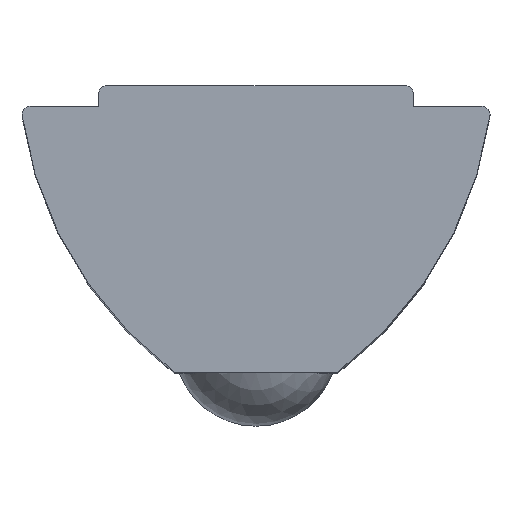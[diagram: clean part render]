
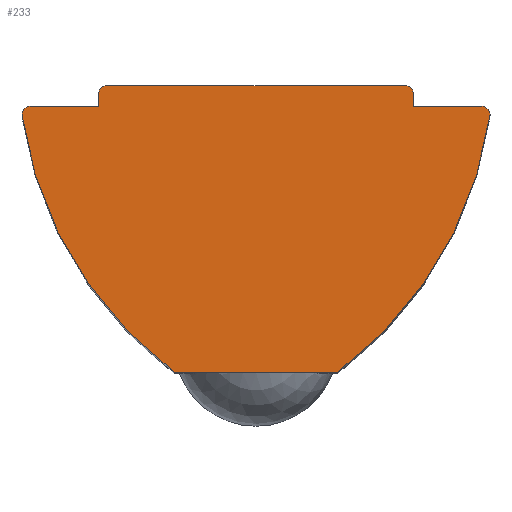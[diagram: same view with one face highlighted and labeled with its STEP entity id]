
A CAD part, top view. The second image highlights one B-rep face of the part: STEP entity #233.
In plain terms, the highlighted planar face has unit normal (0, 0, 1).
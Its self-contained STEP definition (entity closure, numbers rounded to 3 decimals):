
#9 = VECTOR ( 'NONE', #481, 1000. ) ;
#12 = AXIS2_PLACEMENT_3D ( 'NONE', #758, #367, #790 ) ;
#13 = AXIS2_PLACEMENT_3D ( 'NONE', #539, #29, #601 ) ;
#14 = CARTESIAN_POINT ( 'NONE',  ( 3.85, 0., 10. ) ) ;
#19 = CIRCLE ( 'NONE', #232, 9.5 ) ;
#24 = VECTOR ( 'NONE', #603, 1000. ) ;
#29 = DIRECTION ( 'NONE',  ( 0., 0., 1. ) ) ;
#37 = LINE ( 'NONE', #607, #24 ) ;
#38 = CARTESIAN_POINT ( 'NONE',  ( -3.685, 7.611, 10. ) ) ;
#51 = CARTESIAN_POINT ( 'NONE',  ( -5.72, 6.272, 10. ) ) ;
#53 = AXIS2_PLACEMENT_3D ( 'NONE', #755, #361, #789 ) ;
#54 = CIRCLE ( 'NONE', #360, 9.5 ) ;
#57 = VECTOR ( 'NONE', #493, 1000. ) ;
#63 = AXIS2_PLACEMENT_3D ( 'NONE', #450, #833, #535 ) ;
#68 = CARTESIAN_POINT ( 'NONE',  ( 3.685, 7.611, 10. ) ) ;
#70 = CARTESIAN_POINT ( 'NONE',  ( 5.522, 6.5, 10. ) ) ;
#74 = LINE ( 'NONE', #543, #57 ) ;
#91 = VECTOR ( 'NONE', #514, 1000. ) ;
#96 = LINE ( 'NONE', #392, #91 ) ;
#100 = LINE ( 'NONE', #141, #111 ) ;
#111 = VECTOR ( 'NONE', #577, 1000. ) ;
#126 = LINE ( 'NONE', #591, #9 ) ;
#141 = CARTESIAN_POINT ( 'NONE',  ( 0., 7., 10. ) ) ;
#163 = EDGE_CURVE ( 'NONE', #576, #401, #282, .T. ) ;
#165 = EDGE_CURVE ( 'NONE', #832, #800, #269, .T. ) ;
#170 = EDGE_CURVE ( 'NONE', #382, #846, #263, .T. ) ;
#180 = EDGE_CURVE ( 'NONE', #401, #325, #257, .T. ) ;
#188 = EDGE_CURVE ( 'NONE', #640, #520, #256, .T. ) ;
#201 = DIRECTION ( 'NONE',  ( 0., 0., 1. ) ) ;
#203 = DIRECTION ( 'NONE',  ( 0., 0., 1. ) ) ;
#207 = CIRCLE ( 'NONE', #724, 0.2 ) ;
#232 = AXIS2_PLACEMENT_3D ( 'NONE', #38, #466, #713 ) ;
#233 = ADVANCED_FACE ( 'NONE', ( #246 ), #547, .T. ) ;
#241 = CARTESIAN_POINT ( 'NONE',  ( 5.72, 6.272, 10. ) ) ;
#244 = CARTESIAN_POINT ( 'NONE',  ( 3.85, 6.8, 10. ) ) ;
#246 = FACE_OUTER_BOUND ( 'NONE', #654, .T. ) ;
#256 = CIRCLE ( 'NONE', #13, 0.2 ) ;
#257 = CIRCLE ( 'NONE', #12, 0.2 ) ;
#263 = CIRCLE ( 'NONE', #53, 0.2 ) ;
#269 = CIRCLE ( 'NONE', #63, 0.2 ) ;
#281 = VECTOR ( 'NONE', #662, 1000. ) ;
#282 = LINE ( 'NONE', #14, #281 ) ;
#297 = EDGE_CURVE ( 'NONE', #800, #502, #207, .T. ) ;
#325 = VERTEX_POINT ( 'NONE', #411 ) ;
#332 = ORIENTED_EDGE ( 'NONE', *, *, #515, .F. ) ;
#360 = AXIS2_PLACEMENT_3D ( 'NONE', #68, #201, #845 ) ;
#361 = DIRECTION ( 'NONE',  ( 0., 0., 1. ) ) ;
#367 = DIRECTION ( 'NONE',  ( 0., 0., 1. ) ) ;
#369 = VERTEX_POINT ( 'NONE', #633 ) ;
#377 = CARTESIAN_POINT ( 'NONE',  ( 0., 0., 10. ) ) ;
#382 = VERTEX_POINT ( 'NONE', #241 ) ;
#385 = VERTEX_POINT ( 'NONE', #854 ) ;
#390 = CARTESIAN_POINT ( 'NONE',  ( -3.65, 7., 10. ) ) ;
#392 = CARTESIAN_POINT ( 'NONE',  ( -3.85, 0., 10. ) ) ;
#396 = DIRECTION ( 'NONE',  ( 0., 0., 1. ) ) ;
#401 = VERTEX_POINT ( 'NONE', #244 ) ;
#411 = CARTESIAN_POINT ( 'NONE',  ( 3.65, 7., 10. ) ) ;
#450 = CARTESIAN_POINT ( 'NONE',  ( -5.522, 6.3, 10. ) ) ;
#466 = DIRECTION ( 'NONE',  ( 0., 0., -1. ) ) ;
#470 = ORIENTED_EDGE ( 'NONE', *, *, #165, .T. ) ;
#471 = ORIENTED_EDGE ( 'NONE', *, *, #596, .F. ) ;
#473 = ORIENTED_EDGE ( 'NONE', *, *, #605, .T. ) ;
#481 = DIRECTION ( 'NONE',  ( -1., 0., 0. ) ) ;
#483 = EDGE_CURVE ( 'NONE', #325, #640, #100, .T. ) ;
#484 = ORIENTED_EDGE ( 'NONE', *, *, #297, .T. ) ;
#486 = ORIENTED_EDGE ( 'NONE', *, *, #648, .T. ) ;
#487 = ORIENTED_EDGE ( 'NONE', *, *, #163, .T. ) ;
#489 = ORIENTED_EDGE ( 'NONE', *, *, #718, .T. ) ;
#490 = ORIENTED_EDGE ( 'NONE', *, *, #180, .T. ) ;
#491 = ORIENTED_EDGE ( 'NONE', *, *, #170, .T. ) ;
#492 = ORIENTED_EDGE ( 'NONE', *, *, #715, .F. ) ;
#493 = DIRECTION ( 'NONE',  ( 1., 0., 0. ) ) ;
#502 = VERTEX_POINT ( 'NONE', #51 ) ;
#514 = DIRECTION ( 'NONE',  ( 0., 1., 0. ) ) ;
#515 = EDGE_CURVE ( 'NONE', #560, #520, #96, .T. ) ;
#520 = VERTEX_POINT ( 'NONE', #850 ) ;
#522 = ORIENTED_EDGE ( 'NONE', *, *, #188, .T. ) ;
#533 = ORIENTED_EDGE ( 'NONE', *, *, #483, .T. ) ;
#535 = DIRECTION ( 'NONE',  ( 1., 0., 0. ) ) ;
#539 = CARTESIAN_POINT ( 'NONE',  ( -3.65, 6.8, 10. ) ) ;
#543 = CARTESIAN_POINT ( 'NONE',  ( 0., 6.5, 10. ) ) ;
#547 = PLANE ( 'NONE',  #778 ) ;
#560 = VERTEX_POINT ( 'NONE', #571 ) ;
#571 = CARTESIAN_POINT ( 'NONE',  ( -3.85, 6.5, 10. ) ) ;
#573 = CARTESIAN_POINT ( 'NONE',  ( 3.85, 6.5, 10. ) ) ;
#576 = VERTEX_POINT ( 'NONE', #573 ) ;
#577 = DIRECTION ( 'NONE',  ( -1., 0., 0. ) ) ;
#591 = CARTESIAN_POINT ( 'NONE',  ( 0., 6.5, 10. ) ) ;
#596 = EDGE_CURVE ( 'NONE', #832, #560, #74, .T. ) ;
#601 = DIRECTION ( 'NONE',  ( 1., 0., 0. ) ) ;
#603 = DIRECTION ( 'NONE',  ( 1., 0., 0. ) ) ;
#605 = EDGE_CURVE ( 'NONE', #502, #385, #54, .T. ) ;
#607 = CARTESIAN_POINT ( 'NONE',  ( 0., 0., 10. ) ) ;
#633 = CARTESIAN_POINT ( 'NONE',  ( 2., 0., 10. ) ) ;
#640 = VERTEX_POINT ( 'NONE', #390 ) ;
#648 = EDGE_CURVE ( 'NONE', #385, #369, #37, .T. ) ;
#654 = EDGE_LOOP ( 'NONE', ( #471, #470, #484, #473, #486, #492, #491, #489, #487, #490, #533, #522, #332 ) ) ;
#662 = DIRECTION ( 'NONE',  ( 0., 1., 0. ) ) ;
#713 = DIRECTION ( 'NONE',  ( 1., 0., 0. ) ) ;
#715 = EDGE_CURVE ( 'NONE', #382, #369, #19, .T. ) ;
#718 = EDGE_CURVE ( 'NONE', #846, #576, #126, .T. ) ;
#724 = AXIS2_PLACEMENT_3D ( 'NONE', #772, #396, #804 ) ;
#725 = DIRECTION ( 'NONE',  ( 1., 0., 0. ) ) ;
#755 = CARTESIAN_POINT ( 'NONE',  ( 5.522, 6.3, 10. ) ) ;
#758 = CARTESIAN_POINT ( 'NONE',  ( 3.65, 6.8, 10. ) ) ;
#765 = CARTESIAN_POINT ( 'NONE',  ( -5.522, 6.5, 10. ) ) ;
#772 = CARTESIAN_POINT ( 'NONE',  ( -5.522, 6.3, 10. ) ) ;
#778 = AXIS2_PLACEMENT_3D ( 'NONE', #377, #203, #725 ) ;
#781 = CARTESIAN_POINT ( 'NONE',  ( -5.722, 6.3, 10. ) ) ;
#789 = DIRECTION ( 'NONE',  ( 1., 0., 0. ) ) ;
#790 = DIRECTION ( 'NONE',  ( 1., 0., 0. ) ) ;
#800 = VERTEX_POINT ( 'NONE', #781 ) ;
#804 = DIRECTION ( 'NONE',  ( 1., 0., 0. ) ) ;
#832 = VERTEX_POINT ( 'NONE', #765 ) ;
#833 = DIRECTION ( 'NONE',  ( 0., 0., 1. ) ) ;
#845 = DIRECTION ( 'NONE',  ( 1., 0., 0. ) ) ;
#846 = VERTEX_POINT ( 'NONE', #70 ) ;
#850 = CARTESIAN_POINT ( 'NONE',  ( -3.85, 6.8, 10. ) ) ;
#854 = CARTESIAN_POINT ( 'NONE',  ( -2., 0., 10. ) ) ;
